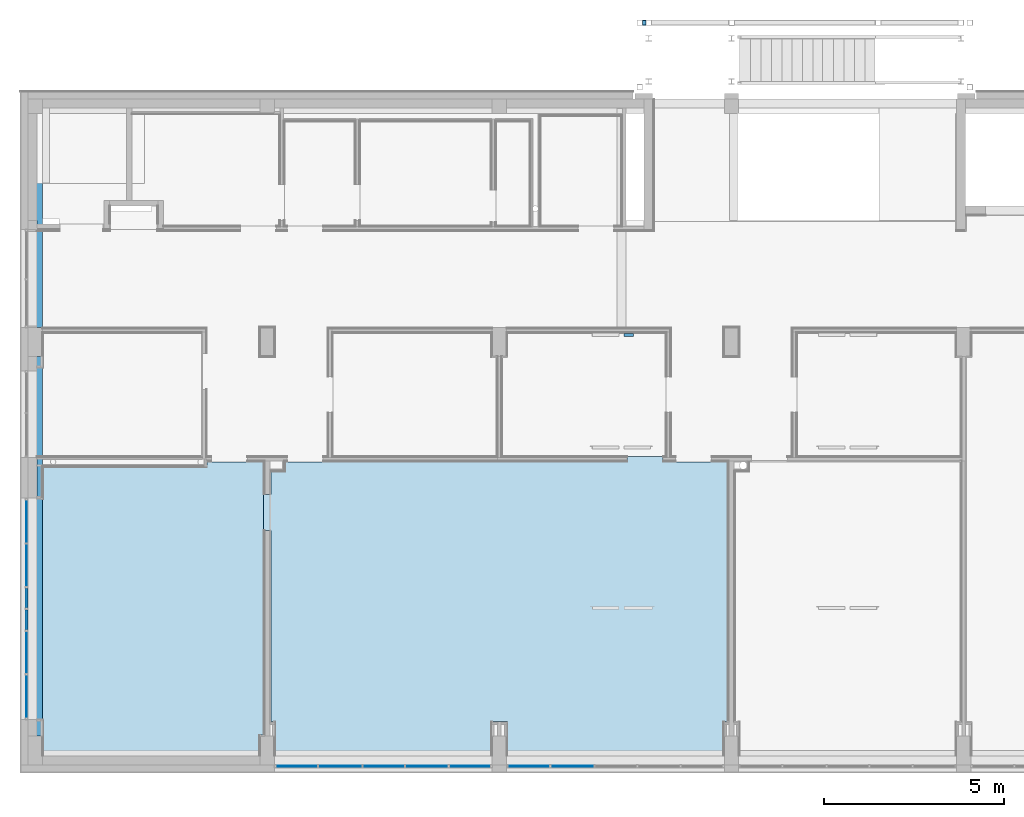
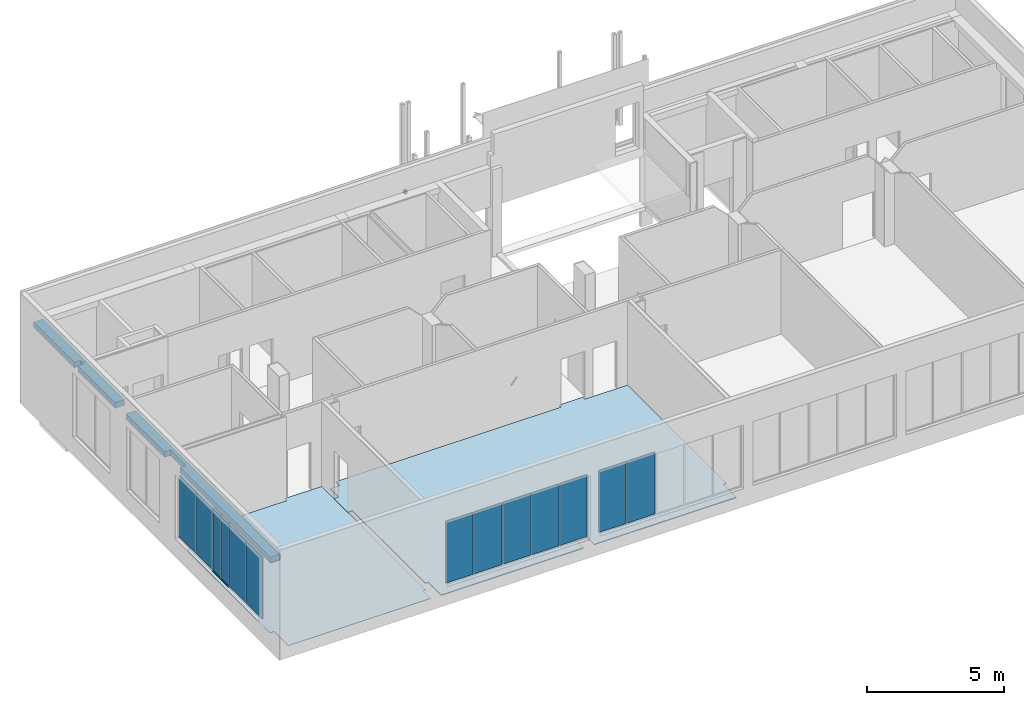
# One storey, part 12 of 29: 13 plates, 5 beams, 4 members, 2 slabs, 3 elements without a shape of their own.
"""IFC2X3 building model written with IfcOpenShell, lengths in centimetres."""

from ifc_helpers import new_model, entity, si_unit, converted_unit, derived_unit, direction, frame, frame_2d, origin, origin_2d_with_axis, place, context, subcontext, project, spatial, polyline, circle_curve, parameter, trimmed, segment, composite_curve, rectangle, outline, extrude, clip, halfspace, faceted_brep, source, transform, mapped, material, layer, layer_set, layer_usage, type_object, type_shapes, element, aggregate, save


model = new_model("IFC2X3")

# Units and contexts
model_context = context("Model", 3, precision=0.001, world=origin(), true_north=direction((6.12303176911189e-17, 1.0)))
body_context = subcontext(model_context, "Body", "Model", "MODEL_VIEW")
ifc_project = project(units=[si_unit("LENGTHUNIT", "METRE", prefix="CENTI"), si_unit("AREAUNIT", "SQUARE_METRE"), si_unit("VOLUMEUNIT", "CUBIC_METRE"), converted_unit("PLANEANGLEUNIT", "DEGREE", entity("IfcRatioMeasure", 0.0174532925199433), si_unit("PLANEANGLEUNIT", "RADIAN"), dimensions=[0, 0, 0, 0, 0, 0, 0]), si_unit("MASSUNIT", "GRAM", prefix="KILO"), derived_unit("MASSDENSITYUNIT", [(si_unit("MASSUNIT", "GRAM", prefix="KILO"), 1), (si_unit("LENGTHUNIT", "METRE"), -3)]), derived_unit("MOMENTOFINERTIAUNIT", [(si_unit("LENGTHUNIT", "METRE"), 4)]), si_unit("TIMEUNIT", "SECOND"), si_unit("FREQUENCYUNIT", "HERTZ"), si_unit("THERMODYNAMICTEMPERATUREUNIT", "DEGREE_CELSIUS"), derived_unit("THERMALTRANSMITTANCEUNIT", [(si_unit("MASSUNIT", "GRAM", prefix="KILO"), 1), (si_unit("THERMODYNAMICTEMPERATUREUNIT", "KELVIN"), -1), (si_unit("TIMEUNIT", "SECOND"), -3)]), derived_unit("VOLUMETRICFLOWRATEUNIT", [(si_unit("LENGTHUNIT", "METRE"), 3), (si_unit("TIMEUNIT", "SECOND"), -1)]), si_unit("ELECTRICCURRENTUNIT", "AMPERE"), si_unit("ELECTRICVOLTAGEUNIT", "VOLT"), si_unit("POWERUNIT", "WATT"), si_unit("FORCEUNIT", "NEWTON", prefix="KILO"), si_unit("ILLUMINANCEUNIT", "LUX"), si_unit("LUMINOUSFLUXUNIT", "LUMEN"), si_unit("LUMINOUSINTENSITYUNIT", "CANDELA"), derived_unit("USERDEFINED", [(si_unit("MASSUNIT", "GRAM", prefix="KILO"), -1), (si_unit("LENGTHUNIT", "METRE"), -2), (si_unit("TIMEUNIT", "SECOND"), 3), (si_unit("LUMINOUSFLUXUNIT", "LUMEN"), 1)]), derived_unit("LINEARVELOCITYUNIT", [(si_unit("LENGTHUNIT", "METRE"), 1), (si_unit("TIMEUNIT", "SECOND"), -1)]), si_unit("PRESSUREUNIT", "PASCAL"), derived_unit("USERDEFINED", [(si_unit("LENGTHUNIT", "METRE"), -2), (si_unit("MASSUNIT", "GRAM", prefix="KILO"), 1), (si_unit("TIMEUNIT", "SECOND"), -2)]), derived_unit("LINEARFORCEUNIT", [(si_unit("MASSUNIT", "GRAM", prefix="KILO"), 1), (si_unit("LENGTHUNIT", "METRE"), 1), (si_unit("TIMEUNIT", "SECOND"), -2), (si_unit("LENGTHUNIT", "METRE"), -1)]), derived_unit("PLANARFORCEUNIT", [(si_unit("MASSUNIT", "GRAM", prefix="KILO"), 1), (si_unit("LENGTHUNIT", "METRE"), 1), (si_unit("TIMEUNIT", "SECOND"), -2), (si_unit("LENGTHUNIT", "METRE"), -2)])], contexts=[model_context])

# Site, building, storey
site_placement = place(None, origin())
site = spatial("IfcSite", under=ifc_project, at=site_placement, Name="Default", CompositionType="ELEMENT")
building_placement = place(site_placement, origin())
building = spatial("IfcBuilding", under=site, at=building_placement, CompositionType="ELEMENT")
storey_placement = place(building_placement, frame((0.0, 0.0, 545.0)))
storey = spatial("IfcBuildingStorey", under=building, at=storey_placement, Name="Poziom 1K +5,45", CompositionType="ELEMENT", Elevation=544.999999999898)

# Beams
ifc_material_1 = material(Name="_Beton C30/37")
beam_type_1 = type_object("IfcBeamType", Name="Beton-belka prostokątna:BELKA 40x30", PredefinedType="NOTDEFINED")
beam_1_placement = place(storey_placement, frame((-2934.26510369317, 1755.12745207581, 365.0), z_axis=(0.0, 0.0, 1.0), x_axis=(0.0, 1.0, 0.0)))
element("IfcBeam", 1, at=beam_1_placement, inside=storey, type_object=beam_type_1, material=ifc_material_1, Name="Beton-belka prostokątna:BELKA 40x30", ObjectType="Beton-belka prostokątna:BELKA 40x30", context=body_context, shape_type="Brep", body=[
    faceted_brep([(0.0, -40.0, 0.0), (0.0, -40.0, 25.0), (0.0, -24.9999971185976, 25.0), (0.0, -24.9999971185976, 0.0), (2.99999953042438, -40.0, 0.0), (310.0, -40.0, 0.0), (310.0, -40.0, 25.0), (2.99999953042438, -24.9999971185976, 0.0), (11.9999999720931, -24.9999971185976, 0.0), (12.9999999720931, -24.9999971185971, 0.0), (12.9999999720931, 0.0, 0.0), (310.0, 0.0, 0.0), (310.0, 0.0, 25.0), (12.9999999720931, 0.0, 25.0), (12.9999999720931, -24.9999971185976, 25.0)], [[[0, 1, 2, 3]], [[0, 4, 5, 6, 1]], [[5, 4, 0, 3, 7, 8, 9, 10, 11]], [[12, 11, 10, 13]], [[5, 11, 12, 6]], [[1, 6, 12, 13, 14, 2]], [[9, 14, 13, 10]], [[14, 9, 8, 7, 3, 2]]]),
])
beam_2_placement = place(storey_placement, frame((-2934.26510369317, 1470.12745208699, 365.0), z_axis=(0.0, 0.0, 1.0), x_axis=(0.0, 1.0, 0.0)))
element("IfcBeam", 2, at=beam_2_placement, inside=storey, type_object=beam_type_1, material=ifc_material_1, Name="Beton-belka prostokątna:BELKA 40x30", ObjectType="Beton-belka prostokątna:BELKA 40x30", context=body_context, shape_type="Brep", body=[
    faceted_brep([(285.0, -40.0, 25.0), (285.0, -40.0, 0.0), (285.0, -24.9999971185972, 0.0), (285.0, -24.9999971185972, 25.0), (0.0, -40.0, 0.0), (268.0, -40.0, 0.0), (270.499999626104, -40.0, 0.0), (273.0, -40.0, 0.0), (273.0, -40.0, 25.0), (270.499999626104, -40.0, 25.0), (268.0, -40.0, 25.0), (0.0, -40.0, 25.0), (0.0, -24.9999971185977, 0.0), (0.0, 0.0, 0.0), (273.0, 0.0, 0.0), (273.0, -24.9999971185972, 0.0), (0.0, 0.0, 25.0), (273.0, 0.0, 25.0), (273.0, -24.9999971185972, 25.0)], [[[0, 1, 2, 3]], [[4, 5, 6, 7, 1, 0, 8, 9, 10, 11]], [[1, 7, 6, 5, 4, 12, 13, 14, 15, 2]], [[13, 16, 17, 14]], [[13, 12, 4, 11, 16]], [[11, 10, 9, 8, 0, 3, 18, 17, 16]], [[18, 15, 14, 17]], [[15, 18, 3, 2]]]),
])
beam_3_placement = place(storey_placement, frame((-2934.26510369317, 335.127657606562, 365.0), z_axis=(0.0, 0.0, 1.0), x_axis=(0.0, 1.0, 0.0)))
element("IfcBeam", 3, at=beam_3_placement, inside=storey, type_object=beam_type_1, material=ifc_material_1, Name="Beton-belka prostokątna:BELKA 40x30", ObjectType="Beton-belka prostokątna:BELKA 40x30", context=body_context, shape_type="Brep", body=[
    faceted_brep([(0.0, -40.0, 0.0), (749.499794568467, -40.0, 0.0), (754.499794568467, -40.0, 0.0), (769.499794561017, -40.0, 0.0), (774.499794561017, -40.0, 0.0), (776.999794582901, -40.0, 0.0), (1021.4997929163, -40.0, 0.0), (1023.9997929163, -40.0, 0.0), (1054.99979448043, -40.0, 0.0), (1054.99979448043, -40.0, 25.0), (1023.9997929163, -40.0, 25.0), (1021.4997929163, -40.0, 25.0), (776.999794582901, -40.0, 25.0), (774.499794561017, -40.0, 25.0), (769.499794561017, -40.0, 25.0), (754.499794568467, -40.0, 25.0), (749.499794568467, -40.0, 25.0), (0.0, -40.0, 25.0), (1054.99979448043, 0.0, 0.0), (1054.99979448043, -24.9999998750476, 0.0), (1054.99979448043, -34.999986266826, 0.0), (0.0, -24.9999998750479, 0.0), (0.0, 0.0, 0.0), (661.0, 0.0, 0.0), (661.0, -24.9999998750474, 0.0), (749.499794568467, -24.9999998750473, 0.0), (754.499794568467, -24.9999998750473, 0.0), (774.499793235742, -24.9999998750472, 0.0), (774.499793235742, 0.0, 0.0), (0.0, 0.0, 25.0), (661.0, 0.0, 25.0), (1054.99979448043, 0.0, 25.0), (774.499793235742, 0.0, 25.0), (774.499793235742, -24.9999998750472, 25.0), (661.0, -24.9999998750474, 25.0)], [[[0, 1, 2, 3, 4, 5, 6, 7, 8, 9, 10, 11, 12, 13, 14, 15, 16, 17]], [[18, 19, 20, 8, 7, 6, 5, 4, 3, 2, 1, 0, 21, 22, 23, 24, 25, 26, 27, 28]], [[22, 29, 30, 23]], [[8, 20, 19, 18, 31, 9]], [[9, 31, 32, 33, 34, 30, 29, 17, 16, 15, 14, 13, 12, 11, 10]], [[0, 17, 29, 22, 21]], [[24, 34, 33, 27, 26, 25]], [[34, 24, 23, 30]], [[27, 33, 32, 28]], [[31, 18, 28, 32]]]),
])

# Curtain wall, members
curtain_wall_type = type_object("IfcCurtainWallType", PredefinedType="NOTDEFINED")
curtain_wall_1_placement = place(storey_placement, frame((0.0, 0.0, -545.0)))
curtain_wall_1 = element("IfcCurtainWall", 4, at=curtain_wall_1_placement, inside=storey, type_object=curtain_wall_type)
ifc_material_2 = material(Name="Aluminium")
member_type_1 = type_object("IfcMemberType", Name="Prostokątny szpros:50 x 80mm", PredefinedType="MULLION", material=ifc_material_2)
shared_shape_1 = source(origin(), body_context, "Body", "SweptSolid", [
    extrude(rectangle(XDim=8.0, YDim=5.0, at=origin_2d_with_axis()), frame((-2.5, 0.0, -55.5000860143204), z_axis=(0.0, 0.0, 1.0), x_axis=(0.0, -1.0, 0.0)), (0.0, 0.0, 1.0), 55.5000860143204),
])
type_shapes(member_type_1, [shared_shape_1])
member_1_placement = place(curtain_wall_1_placement, frame((-2938.26510657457, 630.627450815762, 910.0), z_axis=(0.0, -1.0, 0.0), x_axis=(0.0, 0.0, 1.0)))
member_1 = element("IfcMember", 5, at=member_1_placement, type_object=member_type_1, Name="Prostokątny szpros:50 x 80mm", ObjectType="Prostokątny szpros:50 x 80mm", context=body_context, shape_type="MappedRepresentation", body=[
    mapped(shared_shape_1, transform((0.0, 0.0, 0.0), scale=1.0)),
])
member_2_placement = place(curtain_wall_1_placement, frame((-2938.26510657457, 691.127536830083, 910.0), z_axis=(0.0, -1.0, 0.0), x_axis=(0.0, 0.0, 1.0)))
member_2 = element("IfcMember", 6, at=member_2_placement, type_object=member_type_1, Name="Prostokątny szpros:50 x 80mm", ObjectType="Prostokątny szpros:50 x 80mm", context=body_context, shape_type="MappedRepresentation", body=[
    mapped(shared_shape_1, transform((0.0, 0.0, 0.0), scale=1.0)),
])
member_type_2 = type_object("IfcMemberType", Name="Prostokątny szpros:50 x 80mm", PredefinedType="MULLION", material=ifc_material_2)
shared_shape_2 = source(origin(), body_context, "Body", "SweptSolid", [
    extrude(rectangle(XDim=8.0, YDim=5.0, at=origin_2d_with_axis()), frame((-2.5, 0.0, -55.5000860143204), z_axis=(0.0, 0.0, 1.0), x_axis=(0.0, -1.0, 0.0)), (0.0, 0.0, 1.0), 55.5000860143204),
])
type_shapes(member_type_2, [shared_shape_2])
member_3_placement = place(curtain_wall_1_placement, frame((-2938.26510657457, 746.627622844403, 625.0), z_axis=(0.0, 1.0, 0.0), x_axis=(0.0, 0.0, -1.0)))
member_3 = element("IfcMember", 7, at=member_3_placement, type_object=member_type_2, Name="Prostokątny szpros:50 x 80mm", ObjectType="Prostokątny szpros:50 x 80mm", context=body_context, shape_type="MappedRepresentation", body=[
    mapped(shared_shape_2, transform((0.0, 0.0, 0.0), scale=1.0)),
])
member_4_placement = place(curtain_wall_1_placement, frame((-2938.26510657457, 686.127536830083, 625.0), z_axis=(0.0, 1.0, 0.0), x_axis=(0.0, 0.0, -1.0)))
member_4 = element("IfcMember", 8, at=member_4_placement, type_object=member_type_2, Name="Prostokątny szpros:50 x 80mm", ObjectType="Prostokątny szpros:50 x 80mm", context=body_context, shape_type="MappedRepresentation", body=[
    mapped(shared_shape_2, transform((0.0, 0.0, 0.0), scale=1.0)),
])

# Beams
ifc_material_3 = material(Name="Stal konstrukcyjna - S235")
beam_type_2 = type_object("IfcBeamType", Name="Równoramienne L:L80x8", PredefinedType="NOTDEFINED")
beam_4_placement = place(storey_placement, frame((-1252.23149897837, 1451.86745207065, -70.2583073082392), z_axis=(0.765076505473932, 0.0, -0.64393939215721), x_axis=(-0.64393939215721, 0.0, -0.765076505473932)))
element("IfcBeam", 9, at=beam_4_placement, inside=storey, type_object=beam_type_2, material=ifc_material_3, Name="Równoramienne L:L80x8", ObjectType="Równoramienne L:L80x8", context=body_context, shape_type="SweptSolid", body=[
    clip(extrude(outline(composite_curve([segment(polyline([(2.72222222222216, -4.97777777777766), (3.0222222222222, -4.97777777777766)]), True, "CONTINUOUS"), segment(polyline([(3.0222222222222, -4.97777777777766), (3.02222222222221, 3.02222222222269)]), True, "CONTINUOUS"), segment(polyline([(3.02222222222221, 3.02222222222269), (-4.97777777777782, 3.02222222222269)]), True, "CONTINUOUS"), segment(polyline([(-4.97777777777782, 3.02222222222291), (-4.97777777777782, 2.72222222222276)]), True, "CONTINUOUS"), segment(trimmed(circle_curve(frame_2d((-4.47777777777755, 2.72222222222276), x_axis=(-1.0, 0.0)), 0.500000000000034), [parameter(0.0)], [parameter(89.9999999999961)], True, "PARAMETER"), True, "CONTINUOUS"), segment(polyline([(-4.47777777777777, 2.22222222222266), (1.22222222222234, 2.22222222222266)]), True, "CONTINUOUS"), segment(trimmed(circle_curve(frame_2d((1.22222222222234, 1.22222222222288), x_axis=(0.0, 1.0)), 0.999999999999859), [parameter(269.999999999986)], [parameter(0.0)], True, "PARAMETER"), False, "CONTINUOUS"), segment(polyline([(2.22222222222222, 1.22222222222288), (2.22222222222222, -4.47777777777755)]), True, "CONTINUOUS"), segment(trimmed(circle_curve(frame_2d((2.72222222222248, -4.47777777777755), x_axis=(-1.0, 0.0)), 0.500000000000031), [parameter(0.0)], [parameter(89.9999999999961)], True, "PARAMETER"), True, "CONTINUOUS")], self_intersect=False)), frame((0.00234056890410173, -0.7622222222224, 3.02222222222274), z_axis=(1.0, 0.0, 0.0), x_axis=(0.0, 0.0, -1.0)), (0.0, 0.0, 1.0), 40.3200000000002), halfspace(frame((35.8575096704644, -1158.7397944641, 8.24294112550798), z_axis=(0.765076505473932, 0.0, 0.64393939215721), x_axis=(0.0, 1.0, 0.0)), False)),
])
beam_type_3 = type_object("IfcBeamType", Name="STAL RK - Ksztaltowniki zamkniete kwadratowe:RK150x6", PredefinedType="NOTDEFINED")
beam_5_placement = place(storey_placement, frame((-1216.72475324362, 2317.08692648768, 211.0), z_axis=(0.0, 0.0, 1.0), x_axis=(-1.0, 0.0, 0.0)))
element("IfcBeam", 10, at=beam_5_placement, inside=storey, type_object=beam_type_3, material=ifc_material_3, Name="STAL RK - Ksztaltowniki zamkniete kwadratowe:RK150x6", ObjectType="STAL RK - Ksztaltowniki zamkniete kwadratowe:RK150x6", context=body_context, shape_type="SweptSolid", body=[
    extrude(outline(composite_curve([segment(trimmed(circle_curve(frame_2d((-6.29999999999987, -6.30000000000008), x_axis=(1.0, 0.0)), 1.2), [parameter(180.0)], [parameter(270.0)], True, "PARAMETER"), True, "CONTINUOUS"), segment(polyline([(-6.29999999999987, -7.50000000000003), (6.29999999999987, -7.50000000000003)]), True, "CONTINUOUS"), segment(trimmed(circle_curve(frame_2d((6.3000000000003, -6.30000000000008), x_axis=(1.0, 0.0)), 1.19999999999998), [parameter(270.0)], [parameter(360.0)], True, "PARAMETER"), True, "CONTINUOUS"), segment(polyline([(7.50000000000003, -6.30000000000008), (7.50000000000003, 6.29999999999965)]), True, "CONTINUOUS"), segment(trimmed(circle_curve(frame_2d((6.29999999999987, 6.29999999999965), x_axis=(1.0, 0.0)), 1.20000000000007), [parameter(360.0)], [parameter(89.9999999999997)], True, "PARAMETER"), True, "CONTINUOUS"), segment(polyline([(6.29999999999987, 7.4999999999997), (-6.30000000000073, 7.4999999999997)]), True, "CONTINUOUS"), segment(trimmed(circle_curve(frame_2d((-6.30000000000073, 6.30000000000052), x_axis=(1.0, 0.0)), 1.19999999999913), [parameter(89.9999999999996)], [parameter(179.999999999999)], True, "PARAMETER"), True, "CONTINUOUS"), segment(polyline([(-7.50000000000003, 6.30000000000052), (-7.50000000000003, -6.30000000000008)]), True, "CONTINUOUS")], self_intersect=False), holes=[composite_curve([segment(polyline([(-6.90000000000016, -6.30000000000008), (-6.90000000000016, 6.30000000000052)]), True, "CONTINUOUS"), segment(trimmed(circle_curve(frame_2d((-6.30000000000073, 6.30000000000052), x_axis=(1.0, 0.0)), 0.59999999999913), [parameter(90.0000000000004)], [parameter(180.0)], True, "PARAMETER"), False, "CONTINUOUS"), segment(polyline([(-6.30000000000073, 6.89999999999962), (6.29999999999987, 6.89999999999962)]), True, "CONTINUOUS"), segment(trimmed(circle_curve(frame_2d((6.29999999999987, 6.29999999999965), x_axis=(1.0, 0.0)), 0.600000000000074), [parameter(4.07110999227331e-13)], [parameter(90.0000000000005)], True, "PARAMETER"), False, "CONTINUOUS"), segment(polyline([(6.90000000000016, 6.29999999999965), (6.90000000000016, -6.30000000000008)]), True, "CONTINUOUS"), segment(trimmed(circle_curve(frame_2d((6.3000000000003, -6.30000000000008), x_axis=(1.0, 0.0)), 0.59999999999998), [parameter(270.0)], [parameter(5.08888749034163e-13)], True, "PARAMETER"), False, "CONTINUOUS"), segment(polyline([(6.29999999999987, -6.90000000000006), (-6.29999999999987, -6.90000000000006)]), True, "CONTINUOUS"), segment(trimmed(circle_curve(frame_2d((-6.29999999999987, -6.30000000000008), x_axis=(1.0, 0.0)), 0.600000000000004), [parameter(180.0)], [parameter(270.0)], True, "PARAMETER"), False, "CONTINUOUS")], self_intersect=False)]), frame((0.0147914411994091, -0.259999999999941, 7.49999999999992), z_axis=(1.0, 0.0, 0.0), x_axis=(0.0, -1.0, 0.0)), (0.0, 0.0, 1.0), 10.5000000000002),
])

# Plate
ifc_material_4 = material(Name="Szkło")
plate_type_1 = type_object("IfcPlateType", Name="Panel systemowy:Przeszklony", PredefinedType="CURTAIN_PANEL", material=ifc_material_4)
shared_shape_3 = source(origin(), body_context, "Body", "SweptSolid", [
    extrude(rectangle(XDim=2.5, YDim=118.5002067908, at=origin_2d_with_axis()), frame((0.0, 0.0, 0.0), z_axis=(0.0, 0.0, 1.0), x_axis=(0.0, 1.0, 0.0)), (0.0, 0.0, 1.0), 274.999999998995),
])
type_shapes(plate_type_1, [shared_shape_3])
plate_1_placement = place(curtain_wall_1_placement, frame((-2938.26510657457, 931.877554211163, 630.0), z_axis=(0.0, 0.0, 1.0), x_axis=(0.0, -1.0, 0.0)))
plate_1 = element("IfcPlate", 11, at=plate_1_placement, type_object=plate_type_1, material=ifc_material_4, Name="Panel systemowy:Przeszklony", ObjectType="Panel systemowy:Przeszklony", context=body_context, shape_type="MappedRepresentation", body=[
    mapped(shared_shape_3, transform((0.0, 0.0, 0.0), scale=1.0)),
])

plate_type_2 = type_object("IfcPlateType", Name="Panel systemowy:Przeszklony", PredefinedType="CURTAIN_PANEL", material=ifc_material_4)
shared_shape_4 = source(origin(), body_context, "Body", "SweptSolid", [
    extrude(rectangle(XDim=2.5, YDim=115.999827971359, at=origin_2d_with_axis()), frame((0.0, 0.0, 0.0), z_axis=(0.0, 0.0, 1.0), x_axis=(0.0, 1.0, 0.0)), (0.0, 0.0, 1.0), 274.999999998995),
])
type_shapes(plate_type_2, [shared_shape_4])
plate_2_placement = place(curtain_wall_1_placement, frame((-2938.26510657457, 809.627536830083, 630.0), z_axis=(0.0, 0.0, 1.0), x_axis=(0.0, -1.0, 0.0)))
plate_2 = element("IfcPlate", 12, at=plate_2_placement, type_object=plate_type_2, material=ifc_material_4, Name="Panel systemowy:Przeszklony", ObjectType="Panel systemowy:Przeszklony", context=body_context, shape_type="MappedRepresentation", body=[
    mapped(shared_shape_4, transform((0.0, 0.0, 0.0), scale=1.0)),
])

plate_type_3 = type_object("IfcPlateType", Name="Panel systemowy:Przeszklony", PredefinedType="CURTAIN_PANEL", material=ifc_material_4)
shared_shape_5 = source(origin(), body_context, "Body", "SweptSolid", [
    extrude(rectangle(XDim=2.5, YDim=55.5000860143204, at=origin_2d_with_axis()), frame((0.0, 0.0, 0.0), z_axis=(0.0, 0.0, 1.0), x_axis=(0.0, 1.0, 0.0)), (0.0, 0.0, 1.0), 274.999999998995),
])
type_shapes(plate_type_3, [shared_shape_5])
plate_3_placement = place(curtain_wall_1_placement, frame((-2938.26510657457, 718.877579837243, 630.0), z_axis=(0.0, 0.0, 1.0), x_axis=(0.0, -1.0, 0.0)))
plate_3 = element("IfcPlate", 13, at=plate_3_placement, type_object=plate_type_3, material=ifc_material_4, Name="Panel systemowy:Przeszklony", ObjectType="Panel systemowy:Przeszklony", context=body_context, shape_type="MappedRepresentation", body=[
    mapped(shared_shape_5, transform((0.0, 0.0, 0.0), scale=1.0)),
])

plate_4_placement = place(curtain_wall_1_placement, frame((-2938.26510657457, 658.377493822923, 630.0), z_axis=(0.0, 0.0, 1.0), x_axis=(0.0, -1.0, 0.0)))
plate_4 = element("IfcPlate", 14, at=plate_4_placement, type_object=plate_type_3, material=ifc_material_4, Name="Panel systemowy:Przeszklony", ObjectType="Panel systemowy:Przeszklony", context=body_context, shape_type="MappedRepresentation", body=[
    mapped(shared_shape_5, transform((0.0, 0.0, 0.0), scale=1.0)),
])

plate_type_4 = type_object("IfcPlateType", Name="Panel systemowy:Przeszklony", PredefinedType="CURTAIN_PANEL", material=ifc_material_4)
shared_shape_6 = source(origin(), body_context, "Body", "SweptSolid", [
    extrude(rectangle(XDim=2.5, YDim=116.0, at=origin_2d_with_axis()), frame((0.0, 0.0, 0.0), z_axis=(0.0, 0.0, 1.0), x_axis=(0.0, 1.0, 0.0)), (0.0, 0.0, 1.0), 274.999999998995),
])
type_shapes(plate_type_4, [shared_shape_6])
plate_5_placement = place(curtain_wall_1_placement, frame((-2938.26510657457, 567.627450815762, 630.0), z_axis=(0.0, 0.0, 1.0), x_axis=(0.0, -1.0, 0.0)))
plate_5 = element("IfcPlate", 15, at=plate_5_placement, type_object=plate_type_4, material=ifc_material_4, Name="Panel systemowy:Przeszklony", ObjectType="Panel systemowy:Przeszklony", context=body_context, shape_type="MappedRepresentation", body=[
    mapped(shared_shape_6, transform((0.0, 0.0, 0.0), scale=1.0)),
])

plate_type_5 = type_object("IfcPlateType", Name="Panel systemowy:Przeszklony", PredefinedType="CURTAIN_PANEL", material=ifc_material_4)
shared_shape_7 = source(origin(), body_context, "Body", "SweptSolid", [
    extrude(rectangle(XDim=2.5, YDim=118.500000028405, at=origin_2d_with_axis()), frame((0.0, 0.0, 0.0), z_axis=(0.0, 0.0, 1.0), x_axis=(0.0, 1.0, 0.0)), (0.0, 0.0, 1.0), 274.999999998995),
])
type_shapes(plate_type_5, [shared_shape_7])
plate_6_placement = place(curtain_wall_1_placement, frame((-2938.26510657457, 445.37745080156, 630.0), z_axis=(0.0, 0.0, 1.0), x_axis=(0.0, -1.0, 0.0)))
plate_6 = element("IfcPlate", 16, at=plate_6_placement, type_object=plate_type_5, material=ifc_material_4, Name="Panel systemowy:Przeszklony", ObjectType="Panel systemowy:Przeszklony", context=body_context, shape_type="MappedRepresentation", body=[
    mapped(shared_shape_7, transform((0.0, 0.0, 0.0), scale=1.0)),
])

aggregate(curtain_wall_1, [plate_1, plate_2, plate_3, plate_4, plate_5, plate_6, member_1, member_3, member_2, member_4])

# Slabs
ifc_material_5 = material(Name="Panel płyty podłogowej")
ifc_layer_1 = layer(ifc_material_5, 4.0)
ifc_layer_set_1 = layer_set([ifc_layer_1], Name="Strop:Podłoga podniesiona gr. 4cm")
ifc_layer_usage_1 = layer_usage(ifc_layer_set_1, "AXIS3", "POSITIVE", 0.0)
slab_type_1 = type_object("IfcSlabType", Name="Strop:Podłoga podniesiona gr. 4cm", PredefinedType="FLOOR", material=ifc_layer_set_1)
slab_1_placement = place(storey_placement, origin())
element("IfcSlab", 17, at=slab_1_placement, inside=storey, type_object=slab_type_1, material=ifc_layer_usage_1, Name="Strop:Podłoga podniesiona gr. 4cm", ObjectType="Strop:Podłoga podniesiona gr. 4cm", PredefinedType="FLOOR", context=body_context, shape_type="SweptSolid", body=[
    extrude(outline(polyline([(181.636326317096, -557.272727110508), (281.636326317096, -557.272727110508), (281.636326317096, -537.272727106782), (344.636326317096, -537.272727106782), (344.636326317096, -497.27272169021), (372.13632627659, -497.27272169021), (372.136326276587, 452.727267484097), (387.136326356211, 452.727267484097), (387.136326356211, 552.727267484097), (372.136326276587, 552.727267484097), (372.136326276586, 732.72727290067), (-349.863673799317, 732.727272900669), (-349.863673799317, 720.227272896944), (-444.86346823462, 720.227272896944), (-444.863468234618, 120.227273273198), (-349.863673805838, 120.227273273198), (-349.863673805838, 75.2272728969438), (-444.863468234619, 75.2272728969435), (-444.863468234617, -524.772723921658), (-349.863673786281, -524.772723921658), (-349.863673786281, -537.272727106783), (181.636326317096, -537.272727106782), (181.636326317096, -557.272727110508)])), frame((-1721.99239350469, 724.991125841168, 15.0), z_axis=(0.0, 0.0, -1.0), x_axis=(0.0, 1.0, 0.0)), (0.0, 0.0, 1.0), 3.99999999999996),
])
ifc_material_6 = material(Name="Wykladzina winylowa (w plytkach) na kleju")
ifc_layer_2 = layer(ifc_material_6, 2.0)
ifc_layer_set_2 = layer_set([ifc_layer_2], Name="Strop:Wykladzina winylowa (w plytkach) na kleju gr.2cm 2")
ifc_layer_usage_2 = layer_usage(ifc_layer_set_2, "AXIS3", "POSITIVE", 0.0)
slab_type_2 = type_object("IfcSlabType", Name="Strop:Wykladzina winylowa (w plytkach) na kleju gr.2cm 2", PredefinedType="FLOOR", material=ifc_layer_set_2)
slab_2_placement = place(storey_placement, origin())
element("IfcSlab", 18, at=slab_2_placement, inside=storey, type_object=slab_type_2, material=ifc_layer_usage_2, Name="Strop:Wykladzina winylowa (w plytkach) na kleju gr.2cm 2", ObjectType="Strop:Wykladzina winylowa (w plytkach) na kleju gr.2cm 2", PredefinedType="FLOOR", context=body_context, shape_type="SweptSolid", body=[
    extrude(outline(polyline([(-312.074858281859, -292.499990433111), (297.925141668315, -292.499990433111), (297.925141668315, -275.000004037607), (386.425143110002, -275.000004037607), (386.425143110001, 179.999987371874), (401.425143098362, 179.999987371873), (401.425143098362, 337.499992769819), (-358.125918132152, 337.499992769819), (-358.125918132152, 325.000006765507), (-415.574651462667, 325.000006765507), (-415.574651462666, -274.999992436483), (-312.07485828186, -274.999992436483), (-312.074858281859, -292.499990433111)])), frame((-2616.76511338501, 695.702309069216, 15.0), z_axis=(0.0, 0.0, -1.0), x_axis=(0.0, 1.0, 0.0)), (0.0, 0.0, 1.0), 1.99999999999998),
])

# Curtain wall, plates
curtain_wall_2_placement = place(storey_placement, frame((0.0, 0.0, -545.0)))
curtain_wall_2 = element("IfcCurtainWall", 19, at=curtain_wall_2_placement, inside=storey, type_object=curtain_wall_type)
plate_type_6 = type_object("IfcPlateType", Name="Panel systemowy:Przeszklony", PredefinedType="CURTAIN_PANEL", material=ifc_material_4)
shared_shape_8 = source(origin(), body_context, "Body", "SweptSolid", [
    extrude(rectangle(XDim=2.5, YDim=113.502899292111, at=origin_2d_with_axis()), frame((0.0, 0.0, 0.0), z_axis=(0.0, 0.0, 1.0), x_axis=(0.0, 1.0, 0.0)), (0.0, 0.0, 1.0), 274.99999999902),
])
type_shapes(plate_type_6, [shared_shape_8])
plate_7_placement = place(curtain_wall_2_placement, frame((-2187.51365697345, 251.12765760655, 630.0)))
plate_7 = element("IfcPlate", 20, at=plate_7_placement, type_object=plate_type_6, material=ifc_material_4, Name="Panel systemowy:Przeszklony", ObjectType="Panel systemowy:Przeszklony", context=body_context, shape_type="MappedRepresentation", body=[
    mapped(shared_shape_8, transform((0.0, 0.0, 0.0), scale=1.0)),
])
plate_type_7 = type_object("IfcPlateType", Name="Panel systemowy:Przeszklony", PredefinedType="CURTAIN_PANEL", material=ifc_material_4)
shared_shape_9 = source(origin(), body_context, "Body", "SweptSolid", [
    extrude(rectangle(XDim=2.5, YDim=118.4999790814, at=frame_2d((0.0, 3.5527136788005e-15), x_axis=(1.0, 0.0))), frame((0.0, 0.0, 0.0), z_axis=(0.0, 0.0, 1.0), x_axis=(0.0, 1.0, 0.0)), (0.0, 0.0, 1.0), 274.99999999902),
])
type_shapes(plate_type_7, [shared_shape_9])
plate_8_placement = place(curtain_wall_2_placement, frame((-2066.5122177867, 251.12765760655, 630.0)))
plate_8 = element("IfcPlate", 21, at=plate_8_placement, type_object=plate_type_7, material=ifc_material_4, Name="Panel systemowy:Przeszklony", ObjectType="Panel systemowy:Przeszklony", context=body_context, shape_type="MappedRepresentation", body=[
    mapped(shared_shape_9, transform((0.0, 0.0, 0.0), scale=1.0)),
])

# Curtain wall, plate
curtain_wall_3_placement = place(storey_placement, frame((0.0, 0.0, -545.0)))
curtain_wall_3 = element("IfcCurtainWall", 22, at=curtain_wall_3_placement, inside=storey, type_object=curtain_wall_type)
plate_9_placement = place(curtain_wall_3_placement, frame((-1421.51219771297, 251.127657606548, 630.0)))
plate_9 = element("IfcPlate", 23, at=plate_9_placement, type_object=plate_type_7, material=ifc_material_4, Name="Panel systemowy:Przeszklony", ObjectType="Panel systemowy:Przeszklony", context=body_context, shape_type="MappedRepresentation", body=[
    mapped(shared_shape_9, transform((0.0, 0.0, 0.0), scale=1.0)),
])

# Plate
plate_type_8 = type_object("IfcPlateType", Name="Panel systemowy:Przeszklony", PredefinedType="CURTAIN_PANEL", material=ifc_material_4)
shared_shape_10 = source(origin(), body_context, "Body", "SweptSolid", [
    extrude(rectangle(XDim=2.5, YDim=113.500007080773, at=origin_2d_with_axis()), frame((0.0, 0.0, 0.0), z_axis=(0.0, 0.0, 1.0), x_axis=(0.0, 1.0, 0.0)), (0.0, 0.0, 1.0), 274.99999999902),
])
type_shapes(plate_type_8, [shared_shape_10])
plate_10_placement = place(curtain_wall_2_placement, frame((-1945.51222470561, 251.127657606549, 630.0)))
plate_10 = element("IfcPlate", 24, at=plate_10_placement, type_object=plate_type_8, material=ifc_material_4, Name="Panel systemowy:Przeszklony", ObjectType="Panel systemowy:Przeszklony", context=body_context, shape_type="MappedRepresentation", body=[
    mapped(shared_shape_10, transform((0.0, 0.0, 0.0), scale=1.0)),
])

plate_type_9 = type_object("IfcPlateType", Name="Panel systemowy:Przeszklony", PredefinedType="CURTAIN_PANEL", material=ifc_material_4)
shared_shape_11 = source(origin(), body_context, "Body", "SweptSolid", [
    extrude(rectangle(XDim=2.5, YDim=115.999999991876, at=origin_2d_with_axis()), frame((0.0, 0.0, 0.0), z_axis=(0.0, 0.0, 1.0), x_axis=(0.0, 1.0, 0.0)), (0.0, 0.0, 1.0), 274.99999999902),
])
type_shapes(plate_type_9, [shared_shape_11])
plate_11_placement = place(curtain_wall_2_placement, frame((-1825.76222116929, 251.127657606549, 630.0)))
plate_11 = element("IfcPlate", 25, at=plate_11_placement, type_object=plate_type_9, material=ifc_material_4, Name="Panel systemowy:Przeszklony", ObjectType="Panel systemowy:Przeszklony", context=body_context, shape_type="MappedRepresentation", body=[
    mapped(shared_shape_11, transform((0.0, 0.0, 0.0), scale=1.0)),
])

plate_type_10 = type_object("IfcPlateType", Name="Panel systemowy:Przeszklony", PredefinedType="CURTAIN_PANEL", material=ifc_material_4)
shared_shape_12 = source(origin(), body_context, "Body", "SweptSolid", [
    extrude(rectangle(XDim=2.5, YDim=113.497114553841, at=origin_2d_with_axis()), frame((0.0, 0.0, 0.0), z_axis=(0.0, 0.0, 1.0), x_axis=(0.0, 1.0, 0.0)), (0.0, 0.0, 1.0), 274.99999999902),
])
type_shapes(plate_type_10, [shared_shape_12])
plate_12_placement = place(curtain_wall_2_placement, frame((-1706.01366389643, 251.127657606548, 630.0)))
plate_12 = element("IfcPlate", 26, at=plate_12_placement, type_object=plate_type_10, material=ifc_material_4, Name="Panel systemowy:Przeszklony", ObjectType="Panel systemowy:Przeszklony", context=body_context, shape_type="MappedRepresentation", body=[
    mapped(shared_shape_12, transform((0.0, 0.0, 0.0), scale=1.0)),
])

aggregate(curtain_wall_2, [plate_7, plate_8, plate_10, plate_11, plate_12])

plate_type_11 = type_object("IfcPlateType", Name="Panel systemowy:Przeszklony", PredefinedType="CURTAIN_PANEL", material=ifc_material_4)
shared_shape_13 = source(origin(), body_context, "Body", "SweptSolid", [
    extrude(rectangle(XDim=2.5, YDim=113.50290546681, at=origin_2d_with_axis()), frame((0.0, 0.0, 0.0), z_axis=(0.0, 0.0, 1.0), x_axis=(0.0, 1.0, 0.0)), (0.0, 0.0, 1.0), 274.99999999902),
])
type_shapes(plate_type_11, [shared_shape_13])
plate_13_placement = place(curtain_wall_3_placement, frame((-1542.51363994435, 251.127657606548, 630.0)))
plate_13 = element("IfcPlate", 27, at=plate_13_placement, type_object=plate_type_11, material=ifc_material_4, Name="Panel systemowy:Przeszklony", ObjectType="Panel systemowy:Przeszklony", context=body_context, shape_type="MappedRepresentation", body=[
    mapped(shared_shape_13, transform((0.0, 0.0, 0.0), scale=1.0)),
])

aggregate(curtain_wall_3, [plate_13, plate_9])

save(model, "model.ifc")
